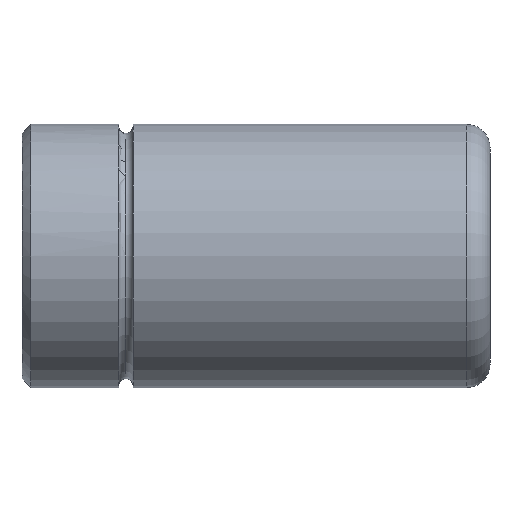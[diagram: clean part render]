
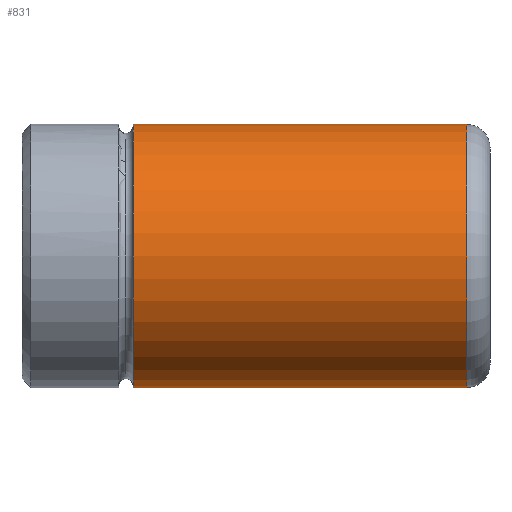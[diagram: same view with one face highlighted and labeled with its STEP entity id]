
A CAD part, front view. The second image highlights one B-rep face of the part: STEP entity #831.
In plain terms, the highlighted cylindrical face has radius 22.5 mm (diameter 45 mm), a partial arc.
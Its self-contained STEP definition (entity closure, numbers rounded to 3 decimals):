
#647=CARTESIAN_POINT('Vertex',(18.975,0.,22.5)) ;
#654=CARTESIAN_POINT('Vertex',(18.975,0.,-22.5)) ;
#680=CARTESIAN_POINT('Axis2P3D Location',(18.975,0.,0.)) ;
#684=CARTESIAN_POINT('Vertex',(18.975,-22.5,0.)) ;
#687=CARTESIAN_POINT('Axis2P3D Location',(18.975,0.,0.)) ;
#771=CARTESIAN_POINT('Line Origine',(80.,0.,22.5)) ;
#775=CARTESIAN_POINT('Vertex',(76.,0.,22.5)) ;
#789=CARTESIAN_POINT('Vertex',(76.,0.,-22.5)) ;
#792=CARTESIAN_POINT('Line Origine',(80.,0.,-22.5)) ;
#806=CARTESIAN_POINT('Axis2P3D Location',(80.,0.,0.)) ;
#811=CARTESIAN_POINT('Axis2P3D Location',(76.,0.,0.)) ;
#815=CARTESIAN_POINT('Vertex',(76.,-22.5,0.)) ;
#818=CARTESIAN_POINT('Axis2P3D Location',(76.,0.,0.)) ;
#681=DIRECTION('Axis2P3D Direction',(1.,-0.,0.)) ;
#688=DIRECTION('Axis2P3D Direction',(1.,-0.,0.)) ;
#772=DIRECTION('Vector Direction',(-1.,0.,0.)) ;
#793=DIRECTION('Vector Direction',(-1.,0.,0.)) ;
#807=DIRECTION('Axis2P3D Direction',(-1.,-0.,-0.)) ;
#808=DIRECTION('Axis2P3D XDirection',(0.,0.,-1.)) ;
#812=DIRECTION('Axis2P3D Direction',(-1.,-0.,-0.)) ;
#819=DIRECTION('Axis2P3D Direction',(-1.,-0.,-0.)) ;
#682=AXIS2_PLACEMENT_3D('Circle Axis2P3D',#680,#681,$) ;
#689=AXIS2_PLACEMENT_3D('Circle Axis2P3D',#687,#688,$) ;
#809=AXIS2_PLACEMENT_3D('Cylinder Axis2P3D',#806,#807,#808) ;
#813=AXIS2_PLACEMENT_3D('Circle Axis2P3D',#811,#812,$) ;
#820=AXIS2_PLACEMENT_3D('Circle Axis2P3D',#818,#819,$) ;
#824=ORIENTED_EDGE('',*,*,#796,.T.) ;
#825=ORIENTED_EDGE('',*,*,#817,.F.) ;
#826=ORIENTED_EDGE('',*,*,#822,.F.) ;
#827=ORIENTED_EDGE('',*,*,#777,.T.) ;
#828=ORIENTED_EDGE('',*,*,#691,.T.) ;
#829=ORIENTED_EDGE('',*,*,#686,.T.) ;
#773=VECTOR('Line Direction',#772,1.) ;
#794=VECTOR('Line Direction',#793,1.) ;
#831=ADVANCED_FACE('343-31 x 80',(#830),#810,.T.) ;
#683=CIRCLE('generated circle',#682,22.5) ;
#690=CIRCLE('generated circle',#689,22.5) ;
#814=CIRCLE('generated circle',#813,22.5) ;
#821=CIRCLE('generated circle',#820,22.5) ;
#810=CYLINDRICAL_SURFACE('generated cylinder',#809,22.5) ;
#686=EDGE_CURVE('',#685,#655,#683,.T.) ;
#691=EDGE_CURVE('',#648,#685,#690,.T.) ;
#777=EDGE_CURVE('',#776,#648,#774,.T.) ;
#796=EDGE_CURVE('',#655,#790,#795,.F.) ;
#817=EDGE_CURVE('',#816,#790,#814,.F.) ;
#822=EDGE_CURVE('',#776,#816,#821,.F.) ;
#823=EDGE_LOOP('',(#824,#825,#826,#827,#828,#829)) ;
#830=FACE_OUTER_BOUND('',#823,.T.) ;
#774=LINE('Line',#771,#773) ;
#795=LINE('Line',#792,#794) ;
#648=VERTEX_POINT('',#647) ;
#655=VERTEX_POINT('',#654) ;
#685=VERTEX_POINT('',#684) ;
#776=VERTEX_POINT('',#775) ;
#790=VERTEX_POINT('',#789) ;
#816=VERTEX_POINT('',#815) ;
